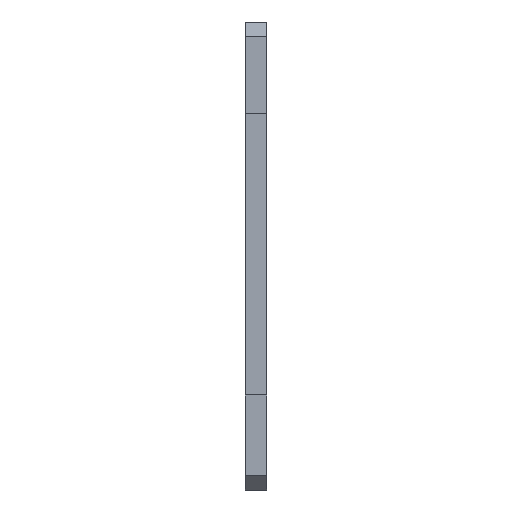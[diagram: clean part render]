
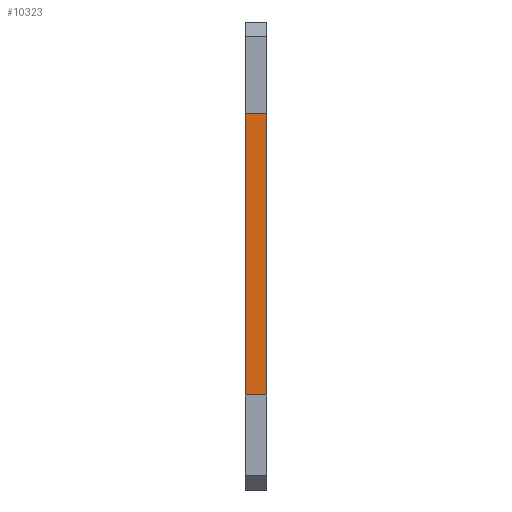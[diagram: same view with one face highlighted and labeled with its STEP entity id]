
A CAD part, left-side view. The second image highlights one B-rep face of the part: STEP entity #10323.
In plain terms, the highlighted planar face has unit normal (-1, 0, 0).
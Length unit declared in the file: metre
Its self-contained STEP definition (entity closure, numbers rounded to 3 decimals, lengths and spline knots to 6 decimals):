
#1036=ORIENTED_EDGE('',*,*,#3496,.F.);
#1037=ORIENTED_EDGE('',*,*,#4030,.T.);
#1038=ORIENTED_EDGE('',*,*,#3546,.T.);
#1039=ORIENTED_EDGE('',*,*,#4031,.F.);
#3496=EDGE_CURVE('',#4996,#4997,#5996,.T.);
#3546=EDGE_CURVE('',#5047,#5046,#6042,.T.);
#4030=EDGE_CURVE('',#4996,#5047,#6522,.T.);
#4031=EDGE_CURVE('',#4997,#5046,#6523,.T.);
#4996=VERTEX_POINT('',#14803);
#4997=VERTEX_POINT('',#14805);
#5046=VERTEX_POINT('',#14904);
#5047=VERTEX_POINT('',#14906);
#5996=LINE('',#14804,#7488);
#6042=LINE('',#14905,#7534);
#6522=LINE('',#15870,#8014);
#6523=LINE('',#15871,#8015);
#7488=VECTOR('',#11819,1.);
#7534=VECTOR('',#11875,1.);
#8014=VECTOR('',#12371,1.);
#8015=VECTOR('',#12372,1.);
#8667=EDGE_LOOP('',(#1036,#1037,#1038,#1039));
#9323=FACE_BOUND('',#8667,.T.);
#9825=PLANE('',#10846);
#10323=ADVANCED_FACE('',(#9323),#9825,.T.);
#10846=AXIS2_PLACEMENT_3D('',#15869,#12369,#12370);
#11819=DIRECTION('',(0.,0.,-1.));
#11875=DIRECTION('',(0.,0.,-1.));
#12369=DIRECTION('',(-1.,0.,0.));
#12370=DIRECTION('',(0.,0.,1.));
#12371=DIRECTION('',(0.,1.,0.));
#12372=DIRECTION('',(0.,1.,0.));
#14803=CARTESIAN_POINT('',(-0.13385,0.0335,0.03551));
#14804=CARTESIAN_POINT('',(-0.13385,0.0335,0.474254));
#14805=CARTESIAN_POINT('',(-0.13385,0.0335,-0.0045));
#14904=CARTESIAN_POINT('',(-0.13385,0.0365,-0.0045));
#14905=CARTESIAN_POINT('',(-0.13385,0.0365,0.474254));
#14906=CARTESIAN_POINT('',(-0.13385,0.0365,0.03551));
#15869=CARTESIAN_POINT('',(-0.13385,0.035,0.474254));
#15870=CARTESIAN_POINT('',(-0.13385,0.035,0.03551));
#15871=CARTESIAN_POINT('',(-0.13385,0.035,-0.0045));
